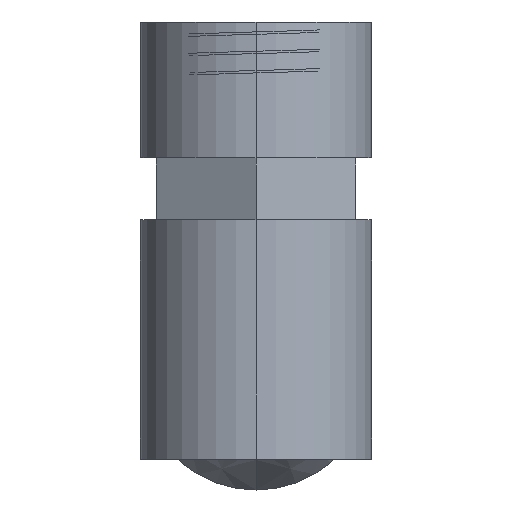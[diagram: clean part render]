
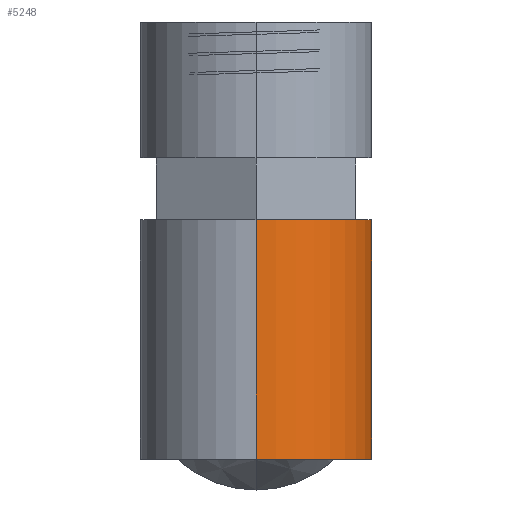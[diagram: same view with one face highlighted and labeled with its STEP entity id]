
A CAD part, left-side view. The second image highlights one B-rep face of the part: STEP entity #5248.
In plain terms, the highlighted cylindrical face has radius 7.5 mm (diameter 15 mm), a partial arc.
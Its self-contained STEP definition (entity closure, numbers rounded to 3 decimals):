
#208 = LINE ( 'NONE', #1076, #3050 ) ;
#422 = EDGE_LOOP ( 'NONE', ( #5944, #580, #2742, #5059, #2647, #3659 ) ) ;
#443 = CARTESIAN_POINT ( 'NONE',  ( 7.5, 0., 15.5 ) ) ;
#549 = AXIS2_PLACEMENT_3D ( 'NONE', #3294, #3896, #1320 ) ;
#575 = DIRECTION ( 'NONE',  ( 0., 0., -1. ) ) ;
#580 = ORIENTED_EDGE ( 'NONE', *, *, #1840, .F. ) ;
#586 = CIRCLE ( 'NONE', #1122, 7.5 ) ;
#802 = AXIS2_PLACEMENT_3D ( 'NONE', #1267, #1749, #3342 ) ;
#1076 = CARTESIAN_POINT ( 'NONE',  ( 7.5, 0., 28.3 ) ) ;
#1122 = AXIS2_PLACEMENT_3D ( 'NONE', #6206, #2620, #1570 ) ;
#1253 = VERTEX_POINT ( 'NONE', #1367 ) ;
#1267 = CARTESIAN_POINT ( 'NONE',  ( 0., 0., 15.5 ) ) ;
#1320 = DIRECTION ( 'NONE',  ( -1., 0., 0. ) ) ;
#1367 = CARTESIAN_POINT ( 'NONE',  ( 0., -7.5, 11. ) ) ;
#1399 = VERTEX_POINT ( 'NONE', #6102 ) ;
#1510 = LINE ( 'NONE', #5169, #1817 ) ;
#1531 = EDGE_CURVE ( 'NONE', #3901, #2410, #3288, .T. ) ;
#1570 = DIRECTION ( 'NONE',  ( 1., 0., 0. ) ) ;
#1749 = DIRECTION ( 'NONE',  ( 0., 0., 1. ) ) ;
#1817 = VECTOR ( 'NONE', #1948, 1000. ) ;
#1829 = FACE_OUTER_BOUND ( 'NONE', #422, .T. ) ;
#1840 = EDGE_CURVE ( 'NONE', #3901, #3961, #2863, .T. ) ;
#1948 = DIRECTION ( 'NONE',  ( 0., 0., -1. ) ) ;
#2393 = DIRECTION ( 'NONE',  ( 0., 1., 0. ) ) ;
#2410 = VERTEX_POINT ( 'NONE', #5687 ) ;
#2511 = VERTEX_POINT ( 'NONE', #6086 ) ;
#2620 = DIRECTION ( 'NONE',  ( 0., 0., 1. ) ) ;
#2647 = ORIENTED_EDGE ( 'NONE', *, *, #4697, .F. ) ;
#2742 = ORIENTED_EDGE ( 'NONE', *, *, #1531, .T. ) ;
#2863 = CIRCLE ( 'NONE', #802, 7.5 ) ;
#2910 = CARTESIAN_POINT ( 'NONE',  ( -7.5, 0., 28.3 ) ) ;
#2915 = EDGE_CURVE ( 'NONE', #3961, #1399, #208, .T. ) ;
#3050 = VECTOR ( 'NONE', #575, 1000. ) ;
#3151 = CARTESIAN_POINT ( 'NONE',  ( -7.5, 0., 15.5 ) ) ;
#3288 = LINE ( 'NONE', #2910, #5208 ) ;
#3294 = CARTESIAN_POINT ( 'NONE',  ( 0., 0., 28.3 ) ) ;
#3342 = DIRECTION ( 'NONE',  ( 1., 0., 0. ) ) ;
#3373 = CARTESIAN_POINT ( 'NONE',  ( 0., 0., 11. ) ) ;
#3659 = ORIENTED_EDGE ( 'NONE', *, *, #4221, .F. ) ;
#3745 = EDGE_CURVE ( 'NONE', #2410, #2511, #586, .T. ) ;
#3800 = CYLINDRICAL_SURFACE ( 'NONE', #549, 7.5 ) ;
#3896 = DIRECTION ( 'NONE',  ( 0., 0., -1. ) ) ;
#3901 = VERTEX_POINT ( 'NONE', #3151 ) ;
#3961 = VERTEX_POINT ( 'NONE', #443 ) ;
#4221 = EDGE_CURVE ( 'NONE', #1399, #1253, #5286, .T. ) ;
#4541 = DIRECTION ( 'NONE',  ( 0., 0., -1. ) ) ;
#4697 = EDGE_CURVE ( 'NONE', #1253, #2511, #1510, .T. ) ;
#5059 = ORIENTED_EDGE ( 'NONE', *, *, #3745, .T. ) ;
#5169 = CARTESIAN_POINT ( 'NONE',  ( 0., -7.5, 11. ) ) ;
#5208 = VECTOR ( 'NONE', #4541, 1000. ) ;
#5248 = ADVANCED_FACE ( 'NONE', ( #1829 ), #3800, .T. ) ;
#5286 = CIRCLE ( 'NONE', #5500, 7.5 ) ;
#5434 = DIRECTION ( 'NONE',  ( 0., 0., -1. ) ) ;
#5500 = AXIS2_PLACEMENT_3D ( 'NONE', #3373, #5434, #2393 ) ;
#5687 = CARTESIAN_POINT ( 'NONE',  ( -7.5, 0., 0. ) ) ;
#5944 = ORIENTED_EDGE ( 'NONE', *, *, #2915, .F. ) ;
#6086 = CARTESIAN_POINT ( 'NONE',  ( 0., -7.5, 0. ) ) ;
#6102 = CARTESIAN_POINT ( 'NONE',  ( 7.5, 0., 11. ) ) ;
#6206 = CARTESIAN_POINT ( 'NONE',  ( 0., 0., 0. ) ) ;
